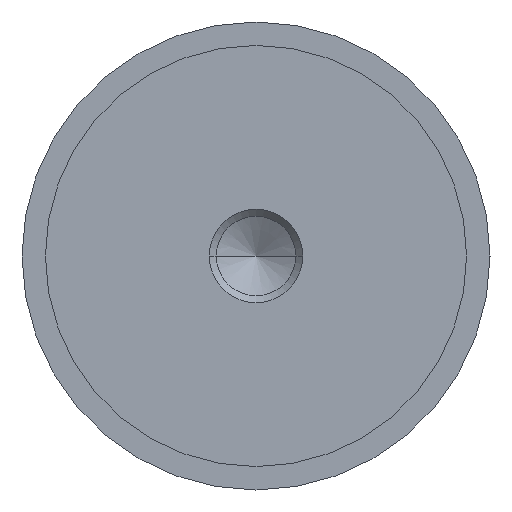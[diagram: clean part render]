
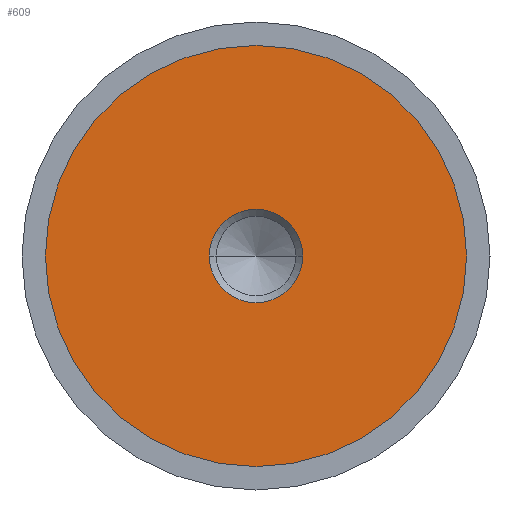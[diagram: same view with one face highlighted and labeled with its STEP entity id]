
A CAD part, left-side view. The second image highlights one B-rep face of the part: STEP entity #609.
In plain terms, the highlighted planar face has unit normal (-1, 0, 0).
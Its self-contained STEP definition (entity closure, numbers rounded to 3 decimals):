
#3 = ORIENTED_EDGE ( 'NONE', *, *, #176, .T. ) ;
#29 = FACE_BOUND ( 'NONE', #80, .T. ) ;
#44 = AXIS2_PLACEMENT_3D ( 'NONE', #261, #510, #380 ) ;
#47 = AXIS2_PLACEMENT_3D ( 'NONE', #658, #437, #112 ) ;
#71 = PLANE ( 'NONE',  #44 ) ;
#80 = EDGE_LOOP ( 'NONE', ( #319, #649 ) ) ;
#86 = EDGE_CURVE ( 'NONE', #551, #103, #493, .T. ) ;
#103 = VERTEX_POINT ( 'NONE', #648 ) ;
#112 = DIRECTION ( 'NONE',  ( 0., 0., -1. ) ) ;
#117 = EDGE_LOOP ( 'NONE', ( #3, #435 ) ) ;
#138 = DIRECTION ( 'NONE',  ( 1., 0., 0. ) ) ;
#176 = EDGE_CURVE ( 'NONE', #778, #745, #717, .T. ) ;
#224 = AXIS2_PLACEMENT_3D ( 'NONE', #464, #636, #525 ) ;
#232 = CARTESIAN_POINT ( 'NONE',  ( -19.99, 0., 18. ) ) ;
#233 = EDGE_CURVE ( 'NONE', #745, #778, #390, .T. ) ;
#235 = CARTESIAN_POINT ( 'NONE',  ( -19.99, 0., 0. ) ) ;
#239 = EDGE_CURVE ( 'NONE', #103, #551, #518, .T. ) ;
#261 = CARTESIAN_POINT ( 'NONE',  ( -19.99, 18., 0. ) ) ;
#319 = ORIENTED_EDGE ( 'NONE', *, *, #239, .T. ) ;
#323 = CARTESIAN_POINT ( 'NONE',  ( -19.99, 0., 0. ) ) ;
#380 = DIRECTION ( 'NONE',  ( 0., 0., -1. ) ) ;
#383 = CARTESIAN_POINT ( 'NONE',  ( -19.99, 3.99, 0. ) ) ;
#390 = CIRCLE ( 'NONE', #509, 18. ) ;
#435 = ORIENTED_EDGE ( 'NONE', *, *, #233, .T. ) ;
#437 = DIRECTION ( 'NONE',  ( 1., 0., 0. ) ) ;
#460 = FACE_OUTER_BOUND ( 'NONE', #117, .T. ) ;
#464 = CARTESIAN_POINT ( 'NONE',  ( -19.99, 0., 0. ) ) ;
#481 = DIRECTION ( 'NONE',  ( -1., 0., 0. ) ) ;
#493 = CIRCLE ( 'NONE', #625, 3.99 ) ;
#509 = AXIS2_PLACEMENT_3D ( 'NONE', #235, #481, #783 ) ;
#510 = DIRECTION ( 'NONE',  ( 1., 0., 0. ) ) ;
#518 = CIRCLE ( 'NONE', #47, 3.99 ) ;
#525 = DIRECTION ( 'NONE',  ( 0., 0., 1. ) ) ;
#551 = VERTEX_POINT ( 'NONE', #383 ) ;
#564 = DIRECTION ( 'NONE',  ( 0., 0., -1. ) ) ;
#609 = ADVANCED_FACE ( 'NONE', ( #29, #460 ), #71, .F. ) ;
#625 = AXIS2_PLACEMENT_3D ( 'NONE', #323, #138, #564 ) ;
#636 = DIRECTION ( 'NONE',  ( -1., 0., 0. ) ) ;
#648 = CARTESIAN_POINT ( 'NONE',  ( -19.99, -3.99, 0. ) ) ;
#649 = ORIENTED_EDGE ( 'NONE', *, *, #86, .T. ) ;
#658 = CARTESIAN_POINT ( 'NONE',  ( -19.99, 0., 0. ) ) ;
#661 = CARTESIAN_POINT ( 'NONE',  ( -19.99, 0., -18. ) ) ;
#717 = CIRCLE ( 'NONE', #224, 18. ) ;
#745 = VERTEX_POINT ( 'NONE', #661 ) ;
#778 = VERTEX_POINT ( 'NONE', #232 ) ;
#783 = DIRECTION ( 'NONE',  ( 0., 0., 1. ) ) ;
